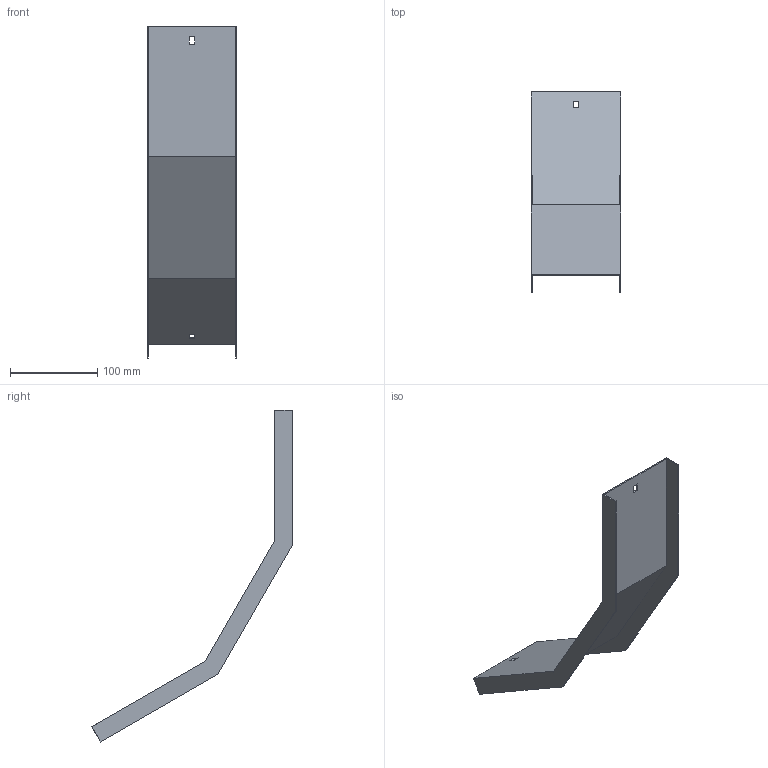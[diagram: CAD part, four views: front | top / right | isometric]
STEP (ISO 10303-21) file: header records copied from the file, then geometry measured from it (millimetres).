
FILE_DESCRIPTION (( 'STEP AP214' ), '1' );
FILE_NAME ('A2X40N3R100X.step', '2025-04-02T08:34:46', ( '' ), ( '' ), 'SwSTEP 2.0', 'SolidWorks 2023', '' );
FILE_SCHEMA (( 'AUTOMOTIVE_DESIGN' ));
Length unit declared in the file: millimetre
Products named in the file (1): A2X40N3R100X
Bounding box: 103 x 229.74 x 380.61 mm (x, y, z)
Volume: 97104.2 mm3; surface area: 131425.9 mm2
Topology: 1 solids, 1 shells, 26 faces, 72 edges, 48 vertices
Faces by surface type: plane 26
Entity records: 847 total; most frequent: CARTESIAN_POINT 147, ORIENTED_EDGE 144, DIRECTION 126, VECTOR 72, EDGE_CURVE 72, LINE 72, VERTEX_POINT 48, EDGE_LOOP 30
